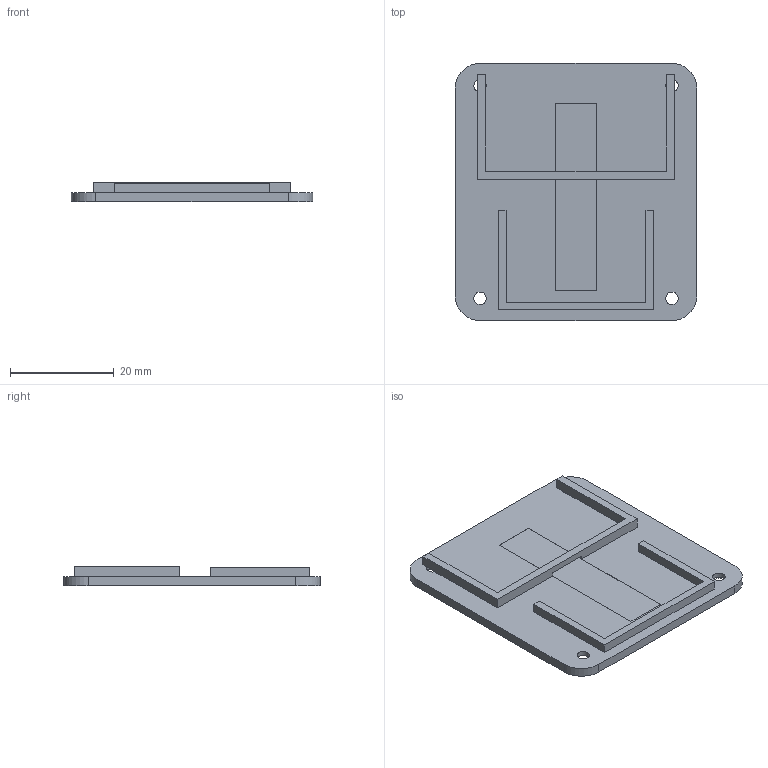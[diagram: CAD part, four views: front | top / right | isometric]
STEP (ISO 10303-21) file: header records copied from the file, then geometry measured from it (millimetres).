
FILE_DESCRIPTION(('Open CASCADE Model'),'2;1');
FILE_NAME('Open CASCADE Shape Model','2026-08-12T19:08:56',('Author'),( 'Open CASCADE'),'Open CASCADE STEP processor 7.9','Open CASCADE 7.9' ,'Unknown');
FILE_SCHEMA(('AUTOMOTIVE_DESIGN { 1 0 10303 214 1 1 1 1 }'));
Length unit declared in the file: millimetre
Products named in the file (1): Open CASCADE STEP translator 7.9 2
Bounding box: 46.6 x 49.6 x 3.8 mm (x, y, z)
Volume: 4345.8 mm3; surface area: 5576.5 mm2
Topology: 1 solids, 1 shells, 56 faces, 154 edges, 100 vertices
Faces by surface type: plane 40, cylinder 16
Full cylindrical faces by diameter (mm): 2.4 x4, 4.3 x4, 10.4 x2
Entity records: 3854 total; most frequent: CARTESIAN_POINT 817, DIRECTION 552, LINE 332, VECTOR 332, ORIENTED_EDGE 308, PCURVE 308, DEFINITIONAL_REPRESENTATION 308, EDGE_CURVE 154
